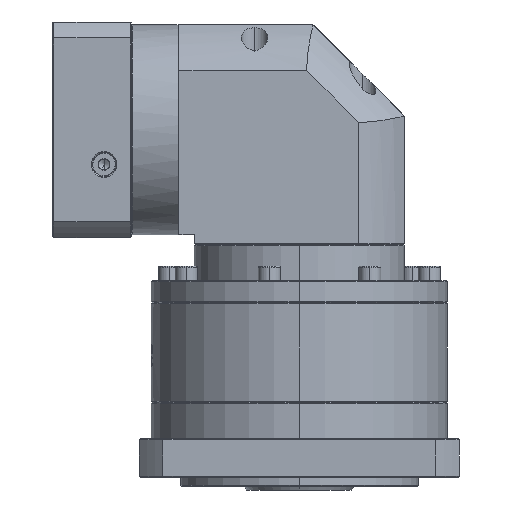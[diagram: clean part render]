
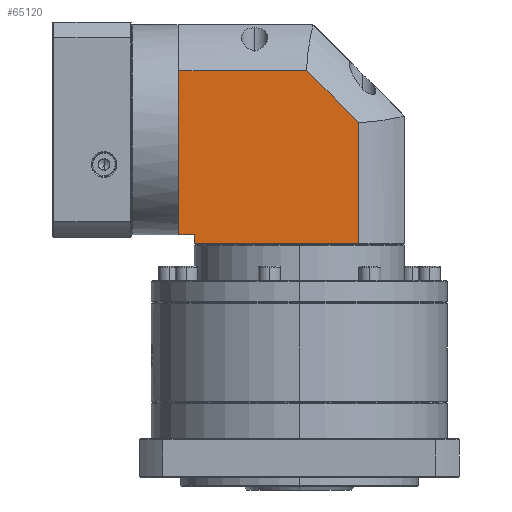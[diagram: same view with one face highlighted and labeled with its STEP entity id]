
A CAD part, left-side view. The second image highlights one B-rep face of the part: STEP entity #65120.
In plain terms, the highlighted planar face has unit normal (-1, 0, 0).
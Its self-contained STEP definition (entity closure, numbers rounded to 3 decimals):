
#369 = CARTESIAN_POINT ( 'NONE',  ( -207.758, 9.633, -58.221 ) ) ;
#2304 = EDGE_CURVE ( 'NONE', #91848, #57131, #112564, .T. ) ;
#4456 = CARTESIAN_POINT ( 'NONE',  ( -207.758, 124.633, -46.721 ) ) ;
#6107 = DIRECTION ( 'NONE',  ( 0., -0.707, -0.707 ) ) ;
#6170 = VERTEX_POINT ( 'NONE', #41674 ) ;
#6653 = CARTESIAN_POINT ( 'NONE',  ( -207.758, 133.033, 43.179 ) ) ;
#8155 = VECTOR ( 'NONE', #72201, 1000. ) ;
#8558 = EDGE_CURVE ( 'NONE', #57131, #114462, #37948, .T. ) ;
#9263 = DIRECTION ( 'NONE',  ( 0., 0., -1. ) ) ;
#11103 = LINE ( 'NONE', #4456, #27669 ) ;
#15796 = EDGE_CURVE ( 'NONE', #123685, #6170, #56268, .T. ) ;
#19882 = EDGE_LOOP ( 'NONE', ( #108866, #26971, #121158, #51559, #61756, #107580, #76329 ) ) ;
#19959 = CARTESIAN_POINT ( 'NONE',  ( -207.758, 34.733, 14.841 ) ) ;
#26971 = ORIENTED_EDGE ( 'NONE', *, *, #28533, .F. ) ;
#27669 = VECTOR ( 'NONE', #46488, 1000. ) ;
#28533 = EDGE_CURVE ( 'NONE', #114462, #80529, #32644, .T. ) ;
#29921 = VECTOR ( 'NONE', #79569, 1000. ) ;
#32256 = DIRECTION ( 'NONE',  ( 0., -1., 0. ) ) ;
#32644 = LINE ( 'NONE', #131712, #128412 ) ;
#32700 = PLANE ( 'NONE',  #40226 ) ;
#37948 = LINE ( 'NONE', #113625, #8155 ) ;
#40226 = AXIS2_PLACEMENT_3D ( 'NONE', #369, #95411, #32256 ) ;
#41674 = CARTESIAN_POINT ( 'NONE',  ( -207.758, 124.633, -51.721 ) ) ;
#42676 = EDGE_CURVE ( 'NONE', #82975, #6170, #114507, .T. ) ;
#44548 = DIRECTION ( 'NONE',  ( 0., 1., 0. ) ) ;
#46363 = VECTOR ( 'NONE', #9263, 1000. ) ;
#46488 = DIRECTION ( 'NONE',  ( 0., -1., 0. ) ) ;
#47254 = CARTESIAN_POINT ( 'NONE',  ( -207.758, 133.033, -46.721 ) ) ;
#47690 = CARTESIAN_POINT ( 'NONE',  ( -207.758, 34.733, -58.221 ) ) ;
#51559 = ORIENTED_EDGE ( 'NONE', *, *, #2304, .F. ) ;
#56191 = EDGE_CURVE ( 'NONE', #80529, #82975, #107430, .T. ) ;
#56268 = LINE ( 'NONE', #92386, #46363 ) ;
#57131 = VERTEX_POINT ( 'NONE', #6653 ) ;
#61756 = ORIENTED_EDGE ( 'NONE', *, *, #76865, .T. ) ;
#65094 = CARTESIAN_POINT ( 'NONE',  ( -207.758, 34.733, -51.721 ) ) ;
#65120 = ADVANCED_FACE ( 'NONE', ( #136786 ), #32700, .F. ) ;
#72201 = DIRECTION ( 'NONE',  ( 0., -1., 0. ) ) ;
#73083 = VECTOR ( 'NONE', #109121, 1000. ) ;
#75345 = CARTESIAN_POINT ( 'NONE',  ( -207.758, 124.633, -46.721 ) ) ;
#76329 = ORIENTED_EDGE ( 'NONE', *, *, #42676, .F. ) ;
#76865 = EDGE_CURVE ( 'NONE', #91848, #123685, #11103, .T. ) ;
#77933 = CARTESIAN_POINT ( 'NONE',  ( -207.758, 63.071, 43.179 ) ) ;
#79569 = DIRECTION ( 'NONE',  ( 0., 0., -1. ) ) ;
#80529 = VERTEX_POINT ( 'NONE', #19959 ) ;
#82975 = VERTEX_POINT ( 'NONE', #65094 ) ;
#91848 = VERTEX_POINT ( 'NONE', #47254 ) ;
#92386 = CARTESIAN_POINT ( 'NONE',  ( -207.758, 124.633, 68.279 ) ) ;
#95411 = DIRECTION ( 'NONE',  ( 1., 0., 0. ) ) ;
#97146 = CARTESIAN_POINT ( 'NONE',  ( -207.758, 133.033, -58.221 ) ) ;
#107290 = CARTESIAN_POINT ( 'NONE',  ( -207.758, 9.633, -51.721 ) ) ;
#107430 = LINE ( 'NONE', #47690, #29921 ) ;
#107580 = ORIENTED_EDGE ( 'NONE', *, *, #15796, .T. ) ;
#108866 = ORIENTED_EDGE ( 'NONE', *, *, #56191, .F. ) ;
#109121 = DIRECTION ( 'NONE',  ( 0., 0., 1. ) ) ;
#112564 = LINE ( 'NONE', #97146, #73083 ) ;
#113625 = CARTESIAN_POINT ( 'NONE',  ( -207.758, 9.633, 43.179 ) ) ;
#114462 = VERTEX_POINT ( 'NONE', #77933 ) ;
#114507 = LINE ( 'NONE', #107290, #134294 ) ;
#121158 = ORIENTED_EDGE ( 'NONE', *, *, #8558, .F. ) ;
#123685 = VERTEX_POINT ( 'NONE', #75345 ) ;
#128412 = VECTOR ( 'NONE', #6107, 1000. ) ;
#131712 = CARTESIAN_POINT ( 'NONE',  ( -207.758, 63.071, 43.179 ) ) ;
#134294 = VECTOR ( 'NONE', #44548, 1000. ) ;
#136786 = FACE_OUTER_BOUND ( 'NONE', #19882, .T. ) ;
